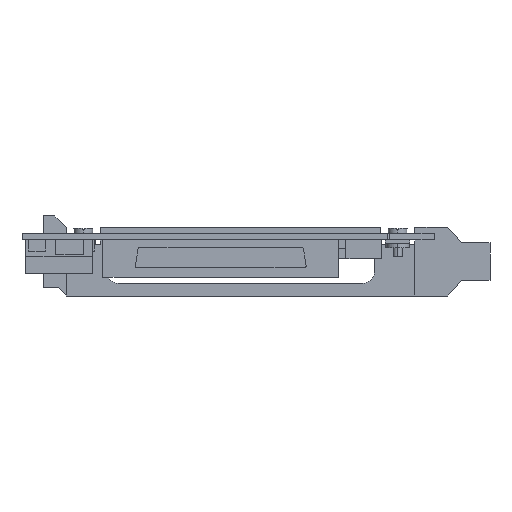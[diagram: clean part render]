
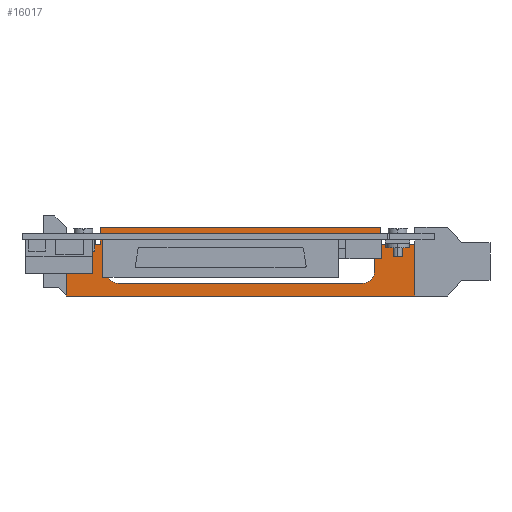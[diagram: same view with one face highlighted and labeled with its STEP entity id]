
A CAD part, left-side view. The second image highlights one B-rep face of the part: STEP entity #16017.
In plain terms, the highlighted planar face has unit normal (-1, 0, 0.001).
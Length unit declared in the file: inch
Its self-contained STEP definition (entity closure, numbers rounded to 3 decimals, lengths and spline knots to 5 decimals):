
#56 = CARTESIAN_POINT ( 'NONE',  ( 3.30012, 1.11, 0.13009 ) ) ;
#313 = VERTEX_POINT ( 'NONE', #14604 ) ;
#352 = CARTESIAN_POINT ( 'NONE',  ( 3.30006, 0.92, 0.06309 ) ) ;
#354 = CARTESIAN_POINT ( 'NONE',  ( 3.29967, -1.68, -0.34691 ) ) ;
#377 = CARTESIAN_POINT ( 'NONE',  ( 3.29956, -1.68, -0.46691 ) ) ;
#590 = CARTESIAN_POINT ( 'NONE',  ( 3.30012, -1.87, 0.13009 ) ) ;
#623 = ORIENTED_EDGE ( 'NONE', *, *, #20029, .T. ) ;
#693 = EDGE_CURVE ( 'NONE', #7618, #4284, #10073, .T. ) ;
#712 = VECTOR ( 'NONE', #18212, 39.37008 ) ;
#867 = DIRECTION ( 'NONE',  ( 0.001, 0., 1. ) ) ;
#885 = DIRECTION ( 'NONE',  ( 0., 1., 0. ) ) ;
#1001 = EDGE_CURVE ( 'NONE', #14153, #15238, #5578, .T. ) ;
#1011 = VECTOR ( 'NONE', #18096, 39.37008 ) ;
#1360 = CIRCLE ( 'NONE', #16298, 0.12 ) ;
#1584 = DIRECTION ( 'NONE',  ( 1., 0., -0.001 ) ) ;
#1625 = VERTEX_POINT ( 'NONE', #2193 ) ;
#1703 = CARTESIAN_POINT ( 'NONE',  ( 3.29956, 1.04, -0.46691 ) ) ;
#1817 = AXIS2_PLACEMENT_3D ( 'NONE', #5179, #13006, #13103 ) ;
#1855 = LINE ( 'NONE', #8256, #14037 ) ;
#1982 = LINE ( 'NONE', #9721, #15194 ) ;
#2115 = VECTOR ( 'NONE', #18164, 39.37008 ) ;
#2132 = CARTESIAN_POINT ( 'NONE',  ( 3.29995, 1.47, -0.04991 ) ) ;
#2193 = CARTESIAN_POINT ( 'NONE',  ( 3.29995, -1.8, -0.05691 ) ) ;
#2343 = CARTESIAN_POINT ( 'NONE',  ( 3.29995, 1.11, -0.04991 ) ) ;
#2395 = VECTOR ( 'NONE', #5794, 39.37008 ) ;
#2459 = EDGE_LOOP ( 'NONE', ( #6878, #15026, #8994, #12202, #13957, #14626, #623, #3265 ) ) ;
#2554 = AXIS2_PLACEMENT_3D ( 'NONE', #6600, #3423, #17869 ) ;
#3168 = PLANE ( 'NONE',  #1817 ) ;
#3259 = VECTOR ( 'NONE', #14706, 39.37008 ) ;
#3265 = ORIENTED_EDGE ( 'NONE', *, *, #9345, .F. ) ;
#3400 = CARTESIAN_POINT ( 'NONE',  ( 3.29995, -2.23, -0.04991 ) ) ;
#3423 = DIRECTION ( 'NONE',  ( 1., 0., -0.001 ) ) ;
#3600 = EDGE_LOOP ( 'NONE', ( #18934, #17443, #7468, #12152, #10602, #6758, #11522, #6389 ) ) ;
#3708 = AXIS2_PLACEMENT_3D ( 'NONE', #8836, #15220, #4372 ) ;
#3835 = VERTEX_POINT ( 'NONE', #18380 ) ;
#4149 = CARTESIAN_POINT ( 'NONE',  ( 3.29995, -1.68, -0.05691 ) ) ;
#4284 = VERTEX_POINT ( 'NONE', #13554 ) ;
#4372 = DIRECTION ( 'NONE',  ( 0.001, 0., 1. ) ) ;
#4506 = CIRCLE ( 'NONE', #2554, 0.12 ) ;
#5179 = CARTESIAN_POINT ( 'NONE',  ( 3.30012, 1.47, 0.13009 ) ) ;
#5280 = VECTOR ( 'NONE', #9039, 39.37008 ) ;
#5324 = DIRECTION ( 'NONE',  ( 0., 1., 0. ) ) ;
#5409 = EDGE_CURVE ( 'NONE', #18450, #313, #13637, .T. ) ;
#5578 = CIRCLE ( 'NONE', #17896, 0.12 ) ;
#5794 = DIRECTION ( 'NONE',  ( -0.001, 0., -1. ) ) ;
#6389 = ORIENTED_EDGE ( 'NONE', *, *, #11577, .T. ) ;
#6600 = CARTESIAN_POINT ( 'NONE',  ( 3.29967, 0.92, -0.34691 ) ) ;
#6628 = CARTESIAN_POINT ( 'NONE',  ( 3.29956, 0.92, -0.46691 ) ) ;
#6758 = ORIENTED_EDGE ( 'NONE', *, *, #7709, .T. ) ;
#6878 = ORIENTED_EDGE ( 'NONE', *, *, #12519, .T. ) ;
#7468 = ORIENTED_EDGE ( 'NONE', *, *, #19833, .T. ) ;
#7536 = CARTESIAN_POINT ( 'NONE',  ( 3.29956, -1.8, -0.46691 ) ) ;
#7618 = VERTEX_POINT ( 'NONE', #2343 ) ;
#7709 = EDGE_CURVE ( 'NONE', #11714, #18115, #13314, .T. ) ;
#7779 = EDGE_CURVE ( 'NONE', #4284, #17907, #14132, .T. ) ;
#7855 = EDGE_CURVE ( 'NONE', #18041, #11714, #15816, .T. ) ;
#8256 = CARTESIAN_POINT ( 'NONE',  ( 3.30012, 1.47, 0.13009 ) ) ;
#8631 = CARTESIAN_POINT ( 'NONE',  ( 3.29943, 1.47, -0.59991 ) ) ;
#8836 = CARTESIAN_POINT ( 'NONE',  ( 3.29995, 0.92, -0.05691 ) ) ;
#8935 = DIRECTION ( 'NONE',  ( 0.001, 0., 1. ) ) ;
#8994 = ORIENTED_EDGE ( 'NONE', *, *, #7779, .T. ) ;
#9039 = DIRECTION ( 'NONE',  ( 0., -1., 0. ) ) ;
#9107 = DIRECTION ( 'NONE',  ( -0.001, 0., -1. ) ) ;
#9345 = EDGE_CURVE ( 'NONE', #9854, #12774, #1855, .T. ) ;
#9357 = CARTESIAN_POINT ( 'NONE',  ( 3.30012, 1.47, 0.13009 ) ) ;
#9721 = CARTESIAN_POINT ( 'NONE',  ( 3.29956, 1.04, -0.46691 ) ) ;
#9801 = EDGE_CURVE ( 'NONE', #18450, #3835, #16860, .T. ) ;
#9854 = VERTEX_POINT ( 'NONE', #56 ) ;
#9976 = VECTOR ( 'NONE', #867, 39.37008 ) ;
#10073 = LINE ( 'NONE', #2132, #1011 ) ;
#10479 = DIRECTION ( 'NONE',  ( 1., 0., -0.001 ) ) ;
#10589 = LINE ( 'NONE', #16940, #5280 ) ;
#10602 = ORIENTED_EDGE ( 'NONE', *, *, #7855, .T. ) ;
#10633 = CARTESIAN_POINT ( 'NONE',  ( 3.29943, 1.47, -0.59991 ) ) ;
#10777 = CARTESIAN_POINT ( 'NONE',  ( 3.30006, -1.68, 0.06309 ) ) ;
#11003 = DIRECTION ( 'NONE',  ( -0.001, 0., -1. ) ) ;
#11117 = FACE_BOUND ( 'NONE', #3600, .T. ) ;
#11143 = CARTESIAN_POINT ( 'NONE',  ( 3.30012, -1.87, 0.13009 ) ) ;
#11188 = DIRECTION ( 'NONE',  ( 0.001, 0., 1. ) ) ;
#11412 = EDGE_CURVE ( 'NONE', #17907, #3835, #19679, .T. ) ;
#11522 = ORIENTED_EDGE ( 'NONE', *, *, #11598, .T. ) ;
#11577 = EDGE_CURVE ( 'NONE', #18718, #1625, #1360, .T. ) ;
#11598 = EDGE_CURVE ( 'NONE', #18115, #18718, #10589, .T. ) ;
#11606 = LINE ( 'NONE', #14641, #2115 ) ;
#11714 = VERTEX_POINT ( 'NONE', #19656 ) ;
#11935 = CARTESIAN_POINT ( 'NONE',  ( 3.29967, 1.04, -0.34691 ) ) ;
#12152 = ORIENTED_EDGE ( 'NONE', *, *, #17259, .T. ) ;
#12202 = ORIENTED_EDGE ( 'NONE', *, *, #11412, .T. ) ;
#12279 = VECTOR ( 'NONE', #11003, 39.37008 ) ;
#12519 = EDGE_CURVE ( 'NONE', #9854, #7618, #11606, .T. ) ;
#12774 = VERTEX_POINT ( 'NONE', #11143 ) ;
#13006 = DIRECTION ( 'NONE',  ( 1., 0., -0.001 ) ) ;
#13040 = DIRECTION ( 'NONE',  ( 0., -1., 0. ) ) ;
#13103 = DIRECTION ( 'NONE',  ( 0.001, 0., 1. ) ) ;
#13246 = VECTOR ( 'NONE', #885, 39.37008 ) ;
#13314 = CIRCLE ( 'NONE', #3708, 0.12 ) ;
#13554 = CARTESIAN_POINT ( 'NONE',  ( 3.29995, 1.47, -0.04991 ) ) ;
#13637 = LINE ( 'NONE', #16739, #13246 ) ;
#13957 = ORIENTED_EDGE ( 'NONE', *, *, #9801, .F. ) ;
#14037 = VECTOR ( 'NONE', #13040, 39.37008 ) ;
#14132 = LINE ( 'NONE', #9357, #12279 ) ;
#14153 = VERTEX_POINT ( 'NONE', #14709 ) ;
#14604 = CARTESIAN_POINT ( 'NONE',  ( 3.29995, -1.87, -0.04991 ) ) ;
#14626 = ORIENTED_EDGE ( 'NONE', *, *, #5409, .T. ) ;
#14641 = CARTESIAN_POINT ( 'NONE',  ( 3.30024, 1.11, 0.25009 ) ) ;
#14706 = DIRECTION ( 'NONE',  ( 0.001, 0., 1. ) ) ;
#14709 = CARTESIAN_POINT ( 'NONE',  ( 3.29967, -1.8, -0.34691 ) ) ;
#14809 = LINE ( 'NONE', #590, #3259 ) ;
#15026 = ORIENTED_EDGE ( 'NONE', *, *, #693, .T. ) ;
#15194 = VECTOR ( 'NONE', #5324, 39.37008 ) ;
#15220 = DIRECTION ( 'NONE',  ( 1., 0., -0.001 ) ) ;
#15238 = VERTEX_POINT ( 'NONE', #377 ) ;
#15549 = FACE_OUTER_BOUND ( 'NONE', #2459, .T. ) ;
#15816 = LINE ( 'NONE', #1703, #9976 ) ;
#16017 = ADVANCED_FACE ( 'NONE', ( #11117, #15549 ), #3168, .F. ) ;
#16298 = AXIS2_PLACEMENT_3D ( 'NONE', #4149, #10479, #8935 ) ;
#16485 = VECTOR ( 'NONE', #9107, 39.37008 ) ;
#16739 = CARTESIAN_POINT ( 'NONE',  ( 3.29995, -1.87, -0.04991 ) ) ;
#16860 = LINE ( 'NONE', #20086, #2395 ) ;
#16940 = CARTESIAN_POINT ( 'NONE',  ( 3.30006, 1.04, 0.06309 ) ) ;
#17008 = LINE ( 'NONE', #7536, #16485 ) ;
#17259 = EDGE_CURVE ( 'NONE', #17992, #18041, #4506, .T. ) ;
#17443 = ORIENTED_EDGE ( 'NONE', *, *, #1001, .T. ) ;
#17515 = EDGE_CURVE ( 'NONE', #1625, #14153, #17008, .T. ) ;
#17869 = DIRECTION ( 'NONE',  ( 0.001, 0., 1. ) ) ;
#17896 = AXIS2_PLACEMENT_3D ( 'NONE', #354, #1584, #11188 ) ;
#17907 = VERTEX_POINT ( 'NONE', #10633 ) ;
#17992 = VERTEX_POINT ( 'NONE', #6628 ) ;
#18041 = VERTEX_POINT ( 'NONE', #11935 ) ;
#18096 = DIRECTION ( 'NONE',  ( 0., 1., 0. ) ) ;
#18115 = VERTEX_POINT ( 'NONE', #352 ) ;
#18164 = DIRECTION ( 'NONE',  ( -0.001, 0., -1. ) ) ;
#18212 = DIRECTION ( 'NONE',  ( 0., -1., 0. ) ) ;
#18380 = CARTESIAN_POINT ( 'NONE',  ( 3.29943, -2.23, -0.59991 ) ) ;
#18450 = VERTEX_POINT ( 'NONE', #3400 ) ;
#18718 = VERTEX_POINT ( 'NONE', #10777 ) ;
#18934 = ORIENTED_EDGE ( 'NONE', *, *, #17515, .T. ) ;
#19656 = CARTESIAN_POINT ( 'NONE',  ( 3.29995, 1.04, -0.05691 ) ) ;
#19679 = LINE ( 'NONE', #8631, #712 ) ;
#19833 = EDGE_CURVE ( 'NONE', #15238, #17992, #1982, .T. ) ;
#20029 = EDGE_CURVE ( 'NONE', #313, #12774, #14809, .T. ) ;
#20086 = CARTESIAN_POINT ( 'NONE',  ( 3.30012, -2.23, 0.13009 ) ) ;
